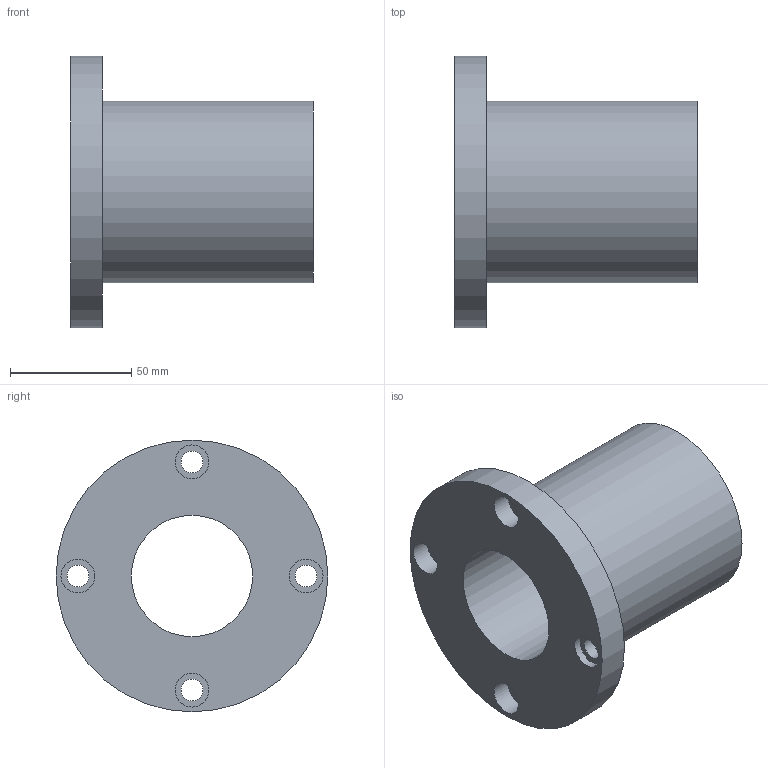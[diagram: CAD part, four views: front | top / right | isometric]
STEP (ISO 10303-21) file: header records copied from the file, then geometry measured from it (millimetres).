
FILE_DESCRIPTION( ( 'STEP AP203' ), '1' );
FILE_NAME( 'p:/temp/worker_1/temp/exporttempdir_3092_1476_YvLzu/format_0/LMEF50UU.stp', '2020-05-07T03:20:59', ( 'License CC BY-ND 4.0' ), ( 'CADENAS' ), ' ', 'PARTsolutions', ' ' );
FILE_SCHEMA( ( 'CONFIG_CONTROL_DESIGN' ) );
Length unit declared in the file: millimetre
Products named in the file (1): _LMEF50UU
Bounding box: 100 x 112 x 112 mm (x, y, z)
Volume: 310298.2 mm3; surface area: 57949.8 mm2
Topology: 1 solids, 1 shells, 18 faces, 34 edges, 23 vertices
Faces by surface type: cylinder 11, plane 7
Full cylindrical faces by diameter (mm): 9 x4, 14 x4, 50 x1, 75 x1, 112 x1
Entity records: 468 total; most frequent: DIRECTION 82, CARTESIAN_POINT 63, EDGE_LOOP 44, ORIENTED_EDGE 44, AXIS2_PLACEMENT_3D 41, FACE_OUTER_BOUND 29, EDGE_CURVE 22, VERTEX_POINT 22
